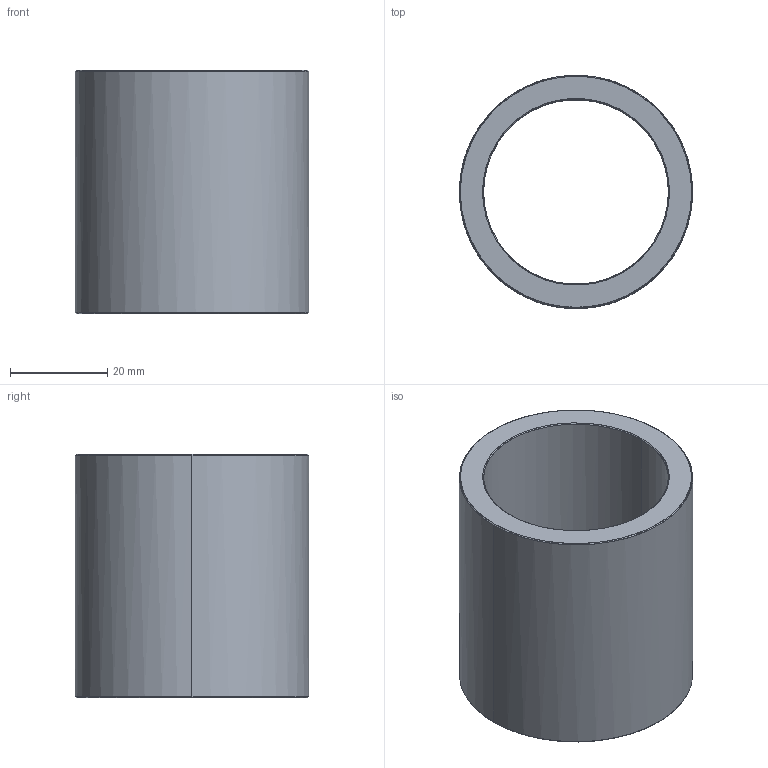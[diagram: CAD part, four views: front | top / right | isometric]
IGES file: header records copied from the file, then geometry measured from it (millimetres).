
Start section: Write IGES format                                    datakit 2008 (c)
Global section: file name: Unknown; native system: DATAKIT Converter; preprocessor: Unknown; author: Unknown; organization: Unknown; date: 950613.180003; units: millimetre
Bounding box: 48 x 47.98 x 50 mm (x, y, z)
Surface area: 14796.4 mm2 (no closed solid volume)
Topology: 0 solids, 0 shells, 14 faces, 56 edges, 56 vertices
Faces by surface type: revolution 12, bspline 2
